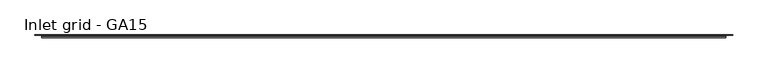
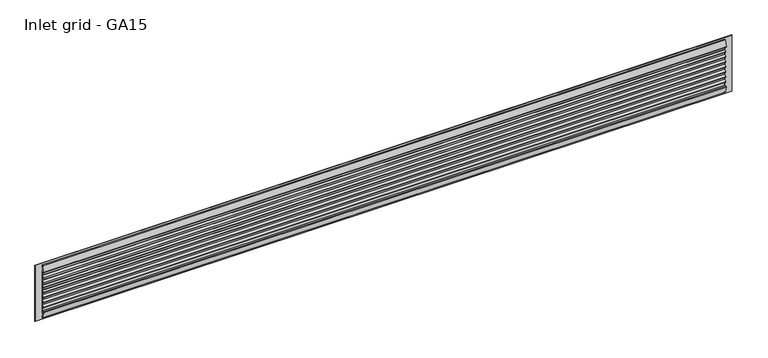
"""IFC4 building model written with IfcOpenShell, lengths in millimetres: proxy geometry, HVAC_Accessories_Emmeti_Grid-GA : Inlet grid - GA15."""

from ifc_helpers import new_model, si_unit, point, frame, frame_2d, origin, place, context, project, spatial, polyline, circle_curve, trimmed, segment, composite_curve, outline, extrude, source, transform, mapped, element, save


def inlet_grid_ga15_548a6d25(model_context):
    return source(origin(), model_context, "Body", "SweptSolid", [
        extrude(outline(composite_curve([segment(polyline([(-4.732363, 150.0), (0.0, 150.0), (0.0, 142.5976564), (-4.272988, 142.5976564)]), True, "CONTINUOUS"), segment(trimmed(circle_curve(frame_2d((-4.272988, 146.0976564)), 3.5), [point((-4.272988, 142.5976564))], [point((-7.772988, 146.0976564))], False, "CARTESIAN"), True, "CONTINUOUS"), segment(polyline([(-7.772988, 146.0976564), (-3.1350602, 163.4898854)]), True, "CONTINUOUS"), segment(trimmed(circle_curve(frame_2d((-1.9313102, 163.1688853)), 1.245815), [point((-3.1350602, 163.4898854))], [point((-1.0, 163.9963613))], False, "CARTESIAN"), True, "CONTINUOUS"), segment(polyline([(-1.0, 163.9963613), (-4.732363, 150.0)]), True, "CONTINUOUS")], self_intersect=False)), frame((-1680.0, 0.0, 0.0), z_axis=(1.0, 0.0, 0.0), x_axis=(0.0, 1.0, 0.0)), (0.0, 0.0, 1.0), 1960.0),
        extrude(outline(composite_curve([segment(polyline([(0.0, 127.5116343), (-6.0, 127.5116343)]), True, "CONTINUOUS"), segment(trimmed(circle_curve(frame_2d((-4.0, 127.5116343)), 2.0), [point((-6.0, 127.5116343))], [point((-5.6369786, 128.6606778))], False, "CARTESIAN"), True, "CONTINUOUS"), segment(trimmed(circle_curve(frame_2d((9.0945217, 118.5661561)), 17.8582326), [point((-5.6369786, 128.6606778))], [point((-1.0, 133.2976564))], False, "CARTESIAN"), True, "CONTINUOUS"), segment(polyline([(-1.0, 133.2976564), (0.0, 133.2976564), (0.0, 127.5116343)]), True, "CONTINUOUS")], self_intersect=False)), frame((-1680.0, 0.0, 0.0), z_axis=(1.0, 0.0, 0.0), x_axis=(0.0, 1.0, 0.0)), (0.0, 0.0, 1.0), 1960.0),
        extrude(outline(composite_curve([segment(polyline([(0.0, 112.4256122), (-6.0, 112.4256122)]), True, "CONTINUOUS"), segment(trimmed(circle_curve(frame_2d((-4.0, 112.4256122)), 2.0), [point((-6.0, 112.4256122))], [point((-5.6369786, 113.5746557))], False, "CARTESIAN"), True, "CONTINUOUS"), segment(trimmed(circle_curve(frame_2d((9.0945217, 103.480134)), 17.8582326), [point((-5.6369786, 113.5746557))], [point((-1.0, 118.2116343))], False, "CARTESIAN"), True, "CONTINUOUS"), segment(polyline([(-1.0, 118.2116343), (0.0, 118.2116343), (0.0, 112.4256122)]), True, "CONTINUOUS")], self_intersect=False)), frame((-1680.0, 0.0, 0.0), z_axis=(1.0, 0.0, 0.0), x_axis=(0.0, 1.0, 0.0)), (0.0, 0.0, 1.0), 1960.0),
        extrude(outline(composite_curve([segment(polyline([(0.0, 97.3395901), (-6.0, 97.3395901)]), True, "CONTINUOUS"), segment(trimmed(circle_curve(frame_2d((-4.0, 97.3395901)), 2.0), [point((-6.0, 97.3395901))], [point((-5.6369786, 98.4886335))], False, "CARTESIAN"), True, "CONTINUOUS"), segment(trimmed(circle_curve(frame_2d((9.0945217, 88.3941118)), 17.8582326), [point((-5.6369786, 98.4886335))], [point((-1.0, 103.1256122))], False, "CARTESIAN"), True, "CONTINUOUS"), segment(polyline([(-1.0, 103.1256122), (0.0, 103.1256122), (0.0, 97.3395901)]), True, "CONTINUOUS")], self_intersect=False)), frame((-1680.0, 0.0, 0.0), z_axis=(1.0, 0.0, 0.0), x_axis=(0.0, 1.0, 0.0)), (0.0, 0.0, 1.0), 1960.0),
        extrude(outline(composite_curve([segment(polyline([(0.0, 82.187813), (-6.0, 82.187813)]), True, "CONTINUOUS"), segment(trimmed(circle_curve(frame_2d((-4.0, 82.187813)), 2.0), [point((-6.0, 82.187813))], [point((-5.6369786, 83.3368565))], False, "CARTESIAN"), True, "CONTINUOUS"), segment(trimmed(circle_curve(frame_2d((9.0945217, 73.2423348)), 17.8582326), [point((-5.6369786, 83.3368565))], [point((-1.0, 87.9738351))], False, "CARTESIAN"), True, "CONTINUOUS"), segment(polyline([(-1.0, 87.9738351), (0.0, 87.9738351), (0.0, 82.187813)]), True, "CONTINUOUS")], self_intersect=False)), frame((-1680.0, 0.0, 0.0), z_axis=(1.0, 0.0, 0.0), x_axis=(0.0, 1.0, 0.0)), (0.0, 0.0, 1.0), 1960.0),
        extrude(outline(composite_curve([segment(polyline([(0.0, 67.1017909), (-6.0, 67.1017909)]), True, "CONTINUOUS"), segment(trimmed(circle_curve(frame_2d((-4.0, 67.1017909)), 2.0), [point((-6.0, 67.1017909))], [point((-5.6369786, 68.2508344))], False, "CARTESIAN"), True, "CONTINUOUS"), segment(trimmed(circle_curve(frame_2d((9.0945217, 58.1563127)), 17.8582326), [point((-5.6369786, 68.2508344))], [point((-1.0, 72.887813))], False, "CARTESIAN"), True, "CONTINUOUS"), segment(polyline([(-1.0, 72.887813), (0.0, 72.887813), (0.0, 67.1017909)]), True, "CONTINUOUS")], self_intersect=False)), frame((-1680.0, 0.0, 0.0), z_axis=(1.0, 0.0, 0.0), x_axis=(0.0, 1.0, 0.0)), (0.0, 0.0, 1.0), 1960.0),
        extrude(outline(composite_curve([segment(polyline([(0.0, 52.0157688), (-6.0, 52.0157688)]), True, "CONTINUOUS"), segment(trimmed(circle_curve(frame_2d((-4.0, 52.0157688)), 2.0), [point((-6.0, 52.0157688))], [point((-5.6369786, 53.1648122))], False, "CARTESIAN"), True, "CONTINUOUS"), segment(trimmed(circle_curve(frame_2d((9.0945217, 43.0702905)), 17.8582326), [point((-5.6369786, 53.1648122))], [point((-1.0, 57.8017909))], False, "CARTESIAN"), True, "CONTINUOUS"), segment(polyline([(-1.0, 57.8017909), (0.0, 57.8017909), (0.0, 52.0157688)]), True, "CONTINUOUS")], self_intersect=False)), frame((-1680.0, 0.0, 0.0), z_axis=(1.0, 0.0, 0.0), x_axis=(0.0, 1.0, 0.0)), (0.0, 0.0, 1.0), 1960.0),
        extrude(outline(composite_curve([segment(polyline([(0.0, 36.8639917), (-6.0, 36.8639917)]), True, "CONTINUOUS"), segment(trimmed(circle_curve(frame_2d((-4.0, 36.8639917)), 2.0), [point((-6.0, 36.8639917))], [point((-5.6369786, 38.0130352))], False, "CARTESIAN"), True, "CONTINUOUS"), segment(trimmed(circle_curve(frame_2d((9.0945217, 27.9185135)), 17.8582326), [point((-5.6369786, 38.0130352))], [point((-1.0, 42.6500138))], False, "CARTESIAN"), True, "CONTINUOUS"), segment(polyline([(-1.0, 42.6500138), (0.0, 42.6500138), (0.0, 36.8639917)]), True, "CONTINUOUS")], self_intersect=False)), frame((-1680.0, 0.0, 0.0), z_axis=(1.0, 0.0, 0.0), x_axis=(0.0, 1.0, 0.0)), (0.0, 0.0, 1.0), 1960.0),
        extrude(outline(composite_curve([segment(polyline([(0.0, 20.0), (-5.132363, 20.0), (-1.0, 4.5036387)]), True, "CONTINUOUS"), segment(trimmed(circle_curve(frame_2d((-1.9313102, 5.3311147)), 1.245815), [point((-1.0, 4.5036387))], [point((-3.1350602, 5.0101146))], False, "CARTESIAN"), True, "CONTINUOUS"), segment(polyline([(-3.1350602, 5.0101146), (-7.772988, 22.4023436)]), True, "CONTINUOUS"), segment(trimmed(circle_curve(frame_2d((-5.772988, 22.4023436)), 2.0), [point((-7.772988, 22.4023436))], [point((-5.772988, 24.4023436))], False, "CARTESIAN"), True, "CONTINUOUS"), segment(polyline([(-5.772988, 24.4023436), (0.0, 24.4023436), (0.0, 20.0)]), True, "CONTINUOUS")], self_intersect=False)), frame((-1680.0, 0.0, 0.0), z_axis=(1.0, 0.0, 0.0), x_axis=(0.0, 1.0, 0.0)), (0.0, 0.0, 1.0), 1960.0),
        extrude(outline(polyline([(170.0, 300.0), (170.0, -1700.0), (0.0, -1700.0), (0.0, 300.0), (170.0, 300.0)]), holes=[polyline([(150.0, 280.0), (20.0, 280.0), (20.0, -1680.0), (150.0, -1680.0), (150.0, 280.0)])]), frame((0.0, -1.0, 0.0), z_axis=(0.0, 1.0, 0.0), x_axis=(0.0, 0.0, 1.0)), (0.0, 0.0, 1.0), 1.0),
        extrude(outline(polyline([(280.0, 0.0), (280.0, -1.0), (-1680.0, -1.0), (-1680.0, 0.0), (280.0, 0.0)])), frame((0.0, 0.0, 24.4023436), z_axis=(0.0, 0.0, 1.0), x_axis=(1.0, 0.0, 0.0)), (0.0, 0.0, 1.0), 125.5976564),
    ])


if __name__ == "__main__":
    model = new_model("IFC4")
    model_context = context("Model", 3, world=origin())
    ifc_project = project(units=[si_unit("LENGTHUNIT", "METRE", prefix="MILLI")], contexts=[model_context])
    site = spatial("IfcSite", under=ifc_project)
    building = spatial("IfcBuilding", under=site)
    placement = place(None, origin())
    inlet_grid_ga15_shape = inlet_grid_ga15_548a6d25(model_context)
    element("IfcBuildingElementProxy", 1, Name="HVAC_Accessories_Emmeti_Grid-GA : Inlet grid - GA15", ObjectType="HVAC_Accessories_Emmeti_Grid-GA : Inlet grid - GA15", at=placement, inside=building, context=model_context, shape_type="MappedRepresentation", body=[
        mapped(inlet_grid_ga15_shape, transform((0.0, 0.0, 0.0), x_axis=(1.0, 0.0, 0.0), y_axis=(0.0, 1.0, 0.0), z_axis=(0.0, 0.0, 1.0))),
    ])
    save(model, "model.ifc")
